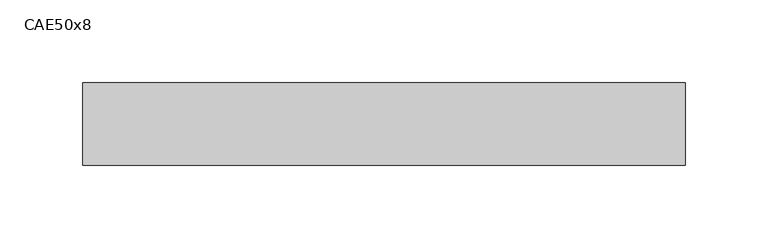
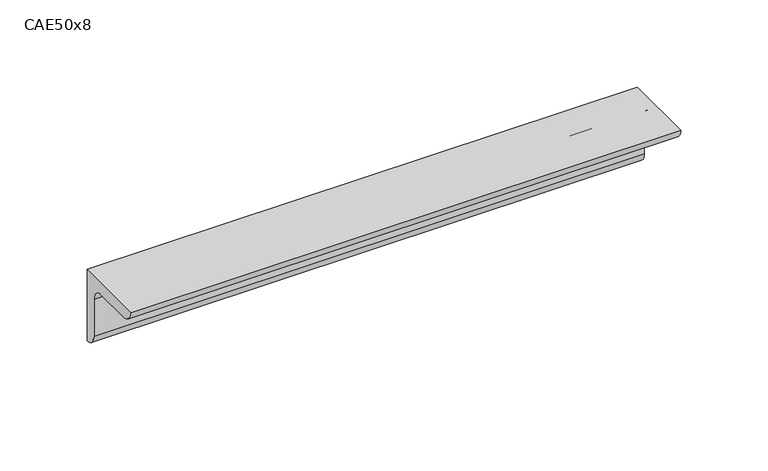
"""IFC4 building model written with IfcOpenShell, lengths in millimetres: beam geometry, L-Cornières : CAE50x8."""

from ifc_helpers import new_model, si_unit, point, frame, frame_2d, origin, place, context, project, spatial, polyline, circle_curve, trimmed, segment, composite_curve, outline, extrude, source, transform, mapped, element, save


def cae50x8_b3125f42(model_context):
    return source(origin(), model_context, "Body", "SweptSolid", [
        extrude(outline(composite_curve([segment(polyline([(15.2, 15.2), (15.2, -34.8)]), True, "CONTINUOUS"), segment(trimmed(circle_curve(frame_2d((15.2, -26.8)), 8.0), [point((15.2, -34.8))], [point((7.2, -26.8))], False, "CARTESIAN"), True, "CONTINUOUS"), segment(polyline([(7.2, -26.8), (7.2, -0.8)]), True, "CONTINUOUS"), segment(trimmed(circle_curve(frame_2d((-0.8, -0.8)), 8.0), [point((7.2, -0.8))], [point((-0.8, 7.2))], True, "CARTESIAN"), True, "CONTINUOUS"), segment(polyline([(-0.8, 7.2), (-26.8, 7.2)]), True, "CONTINUOUS"), segment(trimmed(circle_curve(frame_2d((-26.8, 15.2)), 8.0), [point((-26.8, 7.2))], [point((-34.8, 15.2))], False, "CARTESIAN"), True, "CONTINUOUS"), segment(polyline([(-34.8, 15.2), (15.2, 15.2)]), True, "CONTINUOUS")], self_intersect=False)), frame((-187.0, 0.0, 0.0), z_axis=(1.0, 0.0, 0.0), x_axis=(0.0, 1.0, 0.0)), (0.0, 0.0, 1.0), 365.0),
    ])


if __name__ == "__main__":
    model = new_model("IFC4")
    model_context = context("Model", 3, world=origin())
    ifc_project = project(units=[si_unit("LENGTHUNIT", "METRE", prefix="MILLI")], contexts=[model_context])
    site = spatial("IfcSite", under=ifc_project)
    building = spatial("IfcBuilding", under=site)
    placement = place(None, origin())
    cae50x8_shape = cae50x8_b3125f42(model_context)
    element("IfcBeam", 1, ObjectType="L-Cornières : CAE50x8", at=placement, inside=building, context=model_context, shape_type="MappedRepresentation", body=[
        mapped(cae50x8_shape, transform((0.0, 0.0, 0.0), x_axis=(1.0, 0.0, 0.0), y_axis=(0.0, 1.0, 0.0), z_axis=(0.0, 0.0, 1.0))),
    ])
    save(model, "model.ifc")
